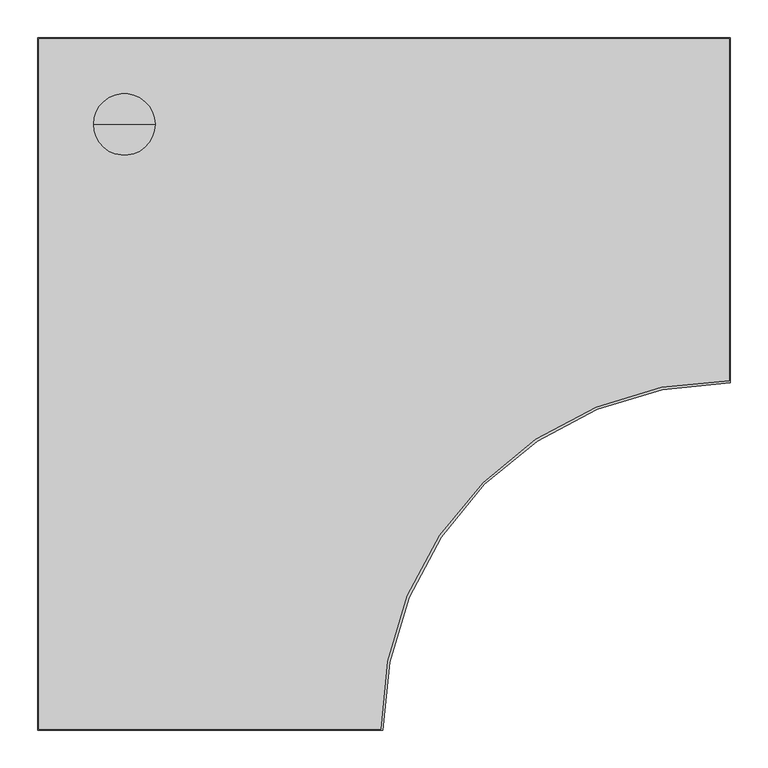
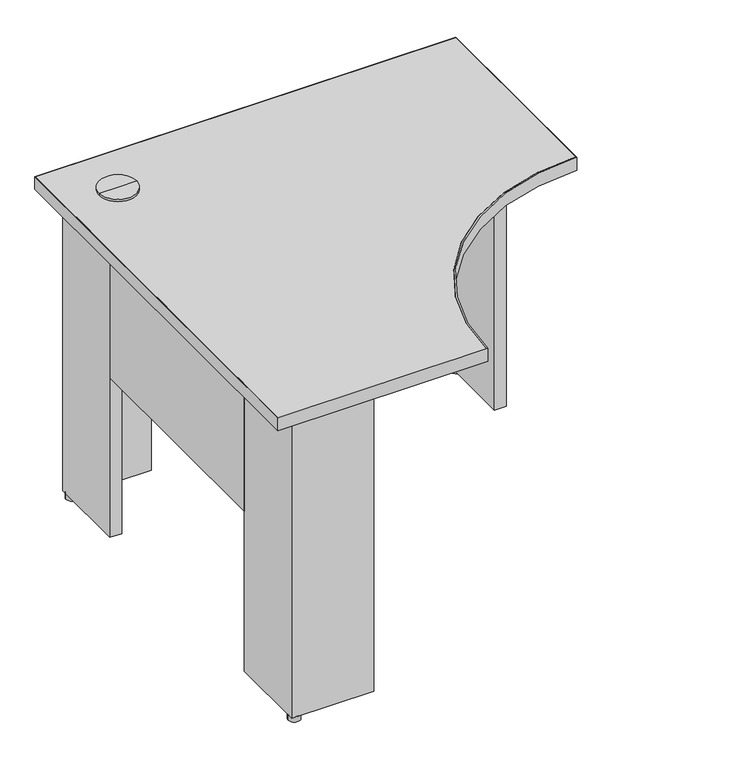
"""IFC4 building model written with IfcOpenShell, lengths in millimetres: furniture geometry, Steelcase - Kick Freestanding - Desk - Curve Corner - Partial Height Modesty Panel : 18D x 36W - LPL."""

from ifc_helpers import new_model, si_unit, point, frame, frame_2d, origin, origin_with_axes, place, context, project, spatial, polyline, circle_curve, trimmed, segment, composite_curve, outline, extrude, source, transform, mapped, element, save
from ifc_brep_helpers import plane_surface, cylinder_surface, advanced_brep


def furniture_644044ad(model_context):
    return source(origin(), model_context, "Body", "SolidModel", [
        extrude(outline(polyline([(721.6393822, -63.5), (721.6393822, -38.1), (899.4393579, -38.1), (899.4393579, -215.8999939), (873.5313463, -215.8999939), (873.5313463, -63.5), (721.6393822, -63.5)])), frame((0.0, 0.0, 12.446), z_axis=(0.0, 0.0, 1.0), x_axis=(1.0, 0.0, 0.0)), (0.0, 0.0, 1.0), 682.498),
        extrude(outline(polyline([(215.8999939, -63.5), (63.5, -63.5), (63.5, -215.8999939), (38.1, -215.8999939), (38.1, -38.1), (215.8999939, -38.1), (215.8999939, -63.5)])), frame((0.0, 0.0, 12.446), z_axis=(0.0, 0.0, 1.0), x_axis=(1.0, 0.0, 0.0)), (0.0, 0.0, 1.0), 682.498),
        advanced_brep(
        [(114.3, -114.3, 728.98), (154.94, -114.3, 728.98), (73.66, -114.3, 728.98), (76.1699693, -114.3, 694.944), (152.4300307, -114.3, 694.944), (114.3, -114.3, 694.944), (76.1699693, -114.3, 723.9), (152.4300307, -114.3, 723.9), (73.66, -114.3, 723.9), (154.94, -114.3, 723.9)],
        [
            (0, 1),
            (1, 2, circle_curve(frame((114.3, -114.3, 728.98), z_axis=(0.0, 0.0, 1.0), x_axis=(1.0, 0.0, 0.0)), 40.64)),
            (2, 0),
            (2, 1, circle_curve(frame((114.3, -114.3, 728.98), z_axis=(0.0, 0.0, 1.0), x_axis=(1.0, 0.0, 0.0)), 40.64)),
            (3, 4, circle_curve(frame((114.3, -114.3, 694.944), z_axis=(0.0, 0.0, -1.0), x_axis=(1.0, 0.0, 0.0)), 38.1300307)),
            (4, 5),
            (5, 3),
            (4, 3, circle_curve(frame((114.3, -114.3, 694.944), z_axis=(0.0, 0.0, -1.0), x_axis=(1.0, 0.0, 0.0)), 38.1300307)),
            (6, 7, circle_curve(frame((114.3, -114.3, 723.9), z_axis=(0.0, 0.0, -1.0), x_axis=(1.0, 0.0, 0.0)), 38.1300307)),
            (7, 4),
            (3, 6),
            (7, 6, circle_curve(frame((114.3, -114.3, 723.9), z_axis=(0.0, 0.0, -1.0), x_axis=(1.0, 0.0, 0.0)), 38.1300307)),
            (8, 9, circle_curve(frame((114.3, -114.3, 723.9), z_axis=(0.0, 0.0, -1.0), x_axis=(1.0, 0.0, 0.0)), 40.64)),
            (9, 7),
            (6, 8),
            (9, 8, circle_curve(frame((114.3, -114.3, 723.9), z_axis=(0.0, 0.0, -1.0), x_axis=(1.0, 0.0, 0.0)), 40.64)),
            (1, 9),
            (8, 2),
        ],
        [
            plane_surface(frame((114.3, -114.3, 728.98), z_axis=(0.0, 0.0, 1.0), x_axis=(1.0, 0.0, 0.0))),
            plane_surface(frame((114.3, -114.3, 694.944), z_axis=(0.0, 0.0, -1.0), x_axis=(1.0, 0.0, 0.0))),
            cylinder_surface(frame((114.3, -114.3, 728.98), z_axis=(0.0, 0.0, 1.0), x_axis=(1.0, 0.0, 0.0)), 38.1300307),
            plane_surface(frame((114.3, -114.3, 723.9), z_axis=(0.0, 0.0, -1.0), x_axis=(1.0, 0.0, 0.0))),
            cylinder_surface(frame((114.3, -114.3, 728.98), z_axis=(0.0, 0.0, 1.0), x_axis=(1.0, 0.0, 0.0)), 40.64),
        ],
        [
            (0, [[1, 2, 3]]),
            (0, [[-3, 4, -1]]),
            (1, [[5, 6, 7]]),
            (1, [[8, -7, -6]]),
            (2, [[9, 10, -5, 11]]),
            (2, [[12, -11, -8, -10]]),
            (3, [[13, 14, -9, 15]]),
            (3, [[16, -15, -12, -14]]),
            (4, [[-2, 17, -13, 18]]),
            (4, [[-4, -18, -16, -17]]),
        ],
    ),
        extrude(outline(composite_curve([segment(trimmed(circle_curve(frame_2d((50.8, -50.8)), 12.7), [point((38.1, -50.8))], [point((63.5, -50.8))], False, "CARTESIAN"), True, "CONTINUOUS"), segment(trimmed(circle_curve(frame_2d((50.8, -50.8)), 12.7), [point((63.5, -50.8))], [point((38.1, -50.8))], False, "CARTESIAN"), True, "CONTINUOUS")], self_intersect=False)), origin_with_axes(), (0.0, 0.0, 1.0), 12.446),
        extrude(outline(composite_curve([segment(trimmed(circle_curve(frame_2d((50.8, -887.7300073)), 12.7484998), [point((38.0515002, -887.7300073))], [point((63.5484998, -887.7300073))], False, "CARTESIAN"), True, "CONTINUOUS"), segment(trimmed(circle_curve(frame_2d((50.8, -887.7300073)), 12.7484998), [point((63.5484998, -887.7300073))], [point((38.0515002, -887.7300073))], False, "CARTESIAN"), True, "CONTINUOUS")], self_intersect=False)), origin_with_axes(), (0.0, 0.0, 1.0), 12.446),
        extrude(outline(composite_curve([segment(trimmed(circle_curve(frame_2d((886.4853521, -50.8)), 12.7), [point((873.7853521, -50.8))], [point((899.1853521, -50.8))], False, "CARTESIAN"), True, "CONTINUOUS"), segment(trimmed(circle_curve(frame_2d((886.4853521, -50.8)), 12.7), [point((899.1853521, -50.8))], [point((873.7853521, -50.8))], False, "CARTESIAN"), True, "CONTINUOUS")], self_intersect=False)), origin_with_axes(), (0.0, 0.0, 1.0), 12.446),
        extrude(outline(polyline([(63.5, -215.8999939), (63.5, -722.6300194), (38.1, -722.6300194), (38.1, -215.8999939), (63.5, -215.8999939)])), frame((0.0, 0.0, 379.476), z_axis=(0.0, 0.0, 1.0), x_axis=(1.0, 0.0, 0.0)), (0.0, 0.0, 1.0), 315.468),
        extrude(outline(polyline([(721.6393822, -38.1), (721.6393822, -63.5), (215.8999939, -63.5), (215.8999939, -38.1), (721.6393822, -38.1)])), frame((0.0, 0.0, 379.476), z_axis=(0.0, 0.0, 1.0), x_axis=(1.0, 0.0, 0.0)), (0.0, 0.0, 1.0), 315.468),
        extrude(outline(polyline([(215.8999939, -875.0300194), (215.8999939, -900.4299952), (38.1, -900.4299952), (38.1, -722.6300194), (63.5, -722.6300194), (63.5, -875.0300194), (215.8999939, -875.0300194)])), frame((0.0, 0.0, 12.446), z_axis=(0.0, 0.0, 1.0), x_axis=(1.0, 0.0, 0.0)), (0.0, 0.0, 1.0), 682.498),
        extrude(outline(composite_curve([segment(polyline([(0.9906, -913.4093628), (0.9906, -0.9906), (913.4093628, -0.9906), (913.4093628, -452.9354109)]), True, "CONTINUOUS"), segment(trimmed(circle_curve(frame_2d((912.1393458, -912.1393458)), 459.2056912), [point((913.4093628, -452.9354109))], [point((452.9354109, -913.4093628))], True, "CARTESIAN"), True, "CONTINUOUS"), segment(polyline([(452.9354109, -913.4093628), (0.9906, -913.4093628)]), True, "CONTINUOUS")], self_intersect=False)), frame((0.0, 0.0, 694.944), z_axis=(0.0, 0.0, 1.0), x_axis=(1.0, 0.0, 0.0)), (0.0, 0.0, 1.0), 28.956),
        extrude(outline(composite_curve([segment(polyline([(914.4, 0.0), (914.4, -455.932629)]), True, "CONTINUOUS"), segment(trimmed(circle_curve(frame_2d((913.129983, -913.129983)), 457.199118), [point((914.4, -455.932629))], [point((455.932629, -914.4))], True, "CARTESIAN"), True, "CONTINUOUS"), segment(polyline([(455.932629, -914.4), (0.0, -914.4), (0.0, 0.0), (914.4, 0.0)]), True, "CONTINUOUS")], self_intersect=False), holes=[composite_curve([segment(polyline([(913.4093628, -0.9906), (0.9906, -0.9906), (0.9906, -913.4093628), (452.9354109, -913.4093628)]), True, "CONTINUOUS"), segment(trimmed(circle_curve(frame_2d((912.1393458, -912.1393458)), 459.2056912), [point((452.9354109, -913.4093628))], [point((913.4093628, -452.9354109))], False, "CARTESIAN"), True, "CONTINUOUS"), segment(polyline([(913.4093628, -452.9354109), (913.4093628, -0.9906)]), True, "CONTINUOUS")], self_intersect=False)]), frame((0.0, 0.0, 694.944), z_axis=(0.0, 0.0, 1.0), x_axis=(1.0, 0.0, 0.0)), (0.0, 0.0, 1.0), 28.956),
    ])


if __name__ == "__main__":
    model = new_model("IFC4")
    model_context = context("Model", 3, world=origin())
    ifc_project = project(units=[si_unit("LENGTHUNIT", "METRE", prefix="MILLI")], contexts=[model_context])
    site = spatial("IfcSite", under=ifc_project)
    building = spatial("IfcBuilding", under=site)
    placement = place(None, origin())
    furniture_shape = furniture_644044ad(model_context)
    element("IfcFurniture", 1, ObjectType="Steelcase - Kick Freestanding - Desk - Curve Corner - Partial Height Modesty Panel : 18D x 36W - LPL", at=placement, inside=building, context=model_context, shape_type="MappedRepresentation", body=[
        mapped(furniture_shape, transform((0.0, 0.0, 0.0), x_axis=(1.0, 0.0, 0.0), y_axis=(0.0, 1.0, 0.0), z_axis=(0.0, 0.0, 1.0))),
    ])
    save(model, "model.ifc")
